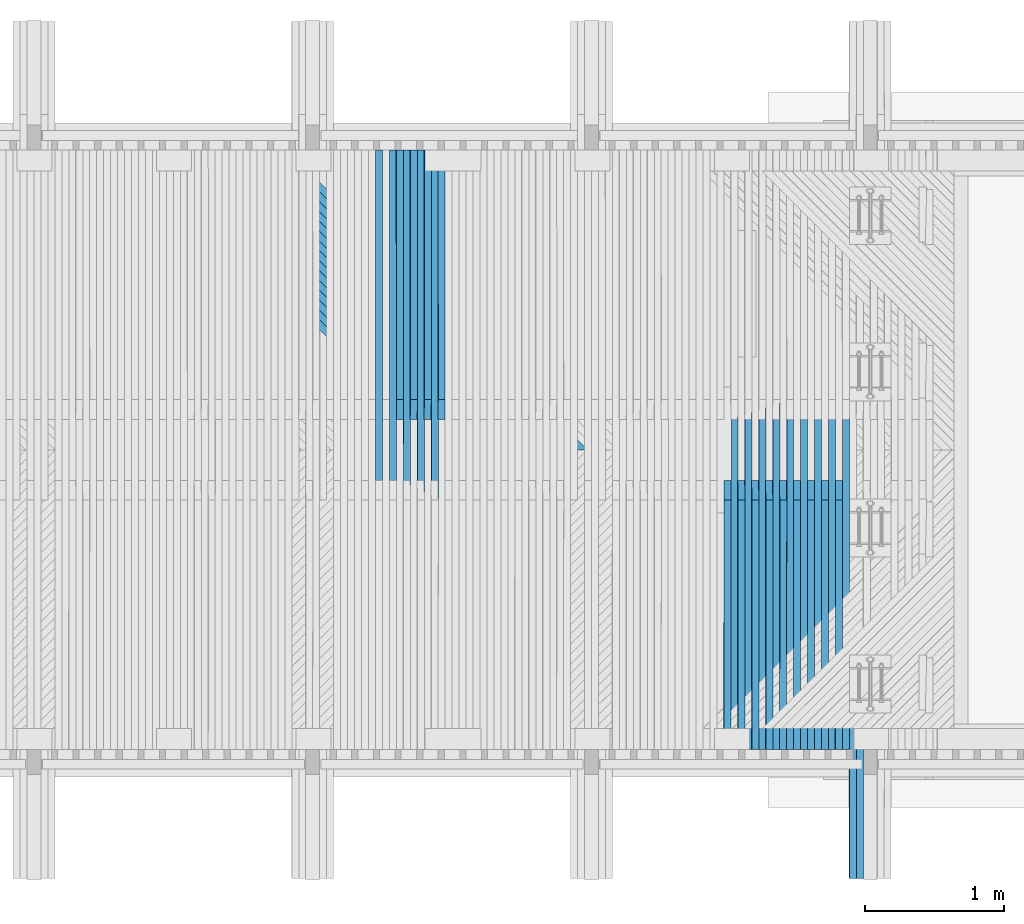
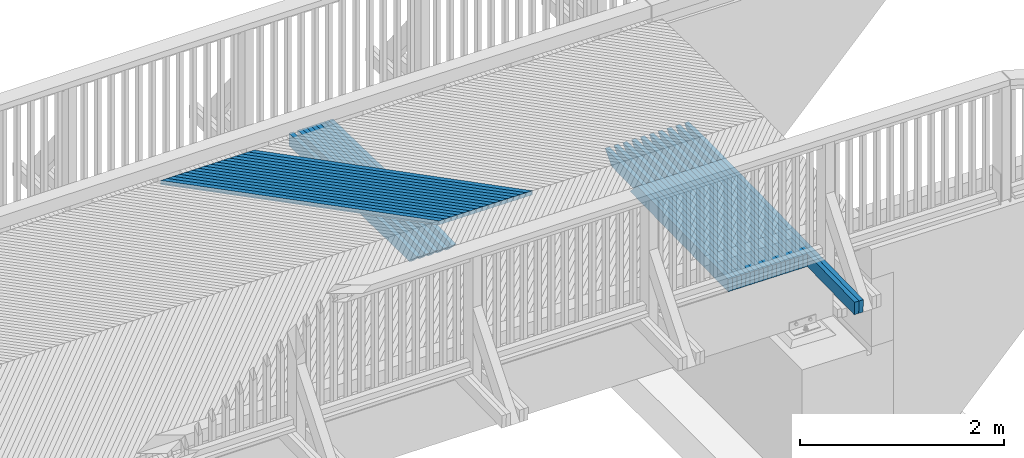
# One storey, part 42 of 53: 44 beams.
"""IFC2X3 building model written with IfcOpenShell, lengths in millimetres."""

from ifc_helpers import new_model, si_unit, frame, origin_with_axes, place, context, subcontext, project, spatial, faceted_brep, material, type_object, element, save


model = new_model("IFC2X3")

# Units and contexts
model_context = context("Model", 3, precision=1e-05, world=origin_with_axes())
body_context = subcontext(model_context, "Body", "Model", "MODEL_VIEW")
ifc_project = project(units=[si_unit("LENGTHUNIT", "METRE", prefix="MILLI"), si_unit("AREAUNIT", "SQUARE_METRE"), si_unit("VOLUMEUNIT", "CUBIC_METRE"), si_unit("MASSUNIT", "GRAM", prefix="KILO"), si_unit("TIMEUNIT", "SECOND"), si_unit("PLANEANGLEUNIT", "RADIAN"), si_unit("SOLIDANGLEUNIT", "STERADIAN"), si_unit("THERMODYNAMICTEMPERATUREUNIT", "DEGREE_CELSIUS"), si_unit("LUMINOUSINTENSITYUNIT", "LUMEN")], contexts=[model_context])

# Site, building, storey
site_placement = place(None, origin_with_axes())
site = spatial("IfcSite", under=ifc_project, at=site_placement, Name="Undefined", CompositionType="ELEMENT")
building_placement = place(site_placement, origin_with_axes())
building = spatial("IfcBuilding", under=site, at=building_placement, Name="Undefined", CompositionType="ELEMENT")
storey_placement = place(building_placement, origin_with_axes())
storey = spatial("IfcBuildingStorey", under=building, at=storey_placement, Name="Undefined", CompositionType="ELEMENT", Elevation=0.0)

# Beams
ifc_material = material(Name="TIMBER/Timber_Undefined")
beam_type_1 = type_object("IfcBeamType", Name="50*50", PredefinedType="NOTDEFINED")
for number, where, z_axis, x_axis, name in (
    (1, (13935.0975862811, 42365.4998996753, 3206.86972998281), (0.706953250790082, 0.706981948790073, -0.019839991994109), (-0.707214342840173, 0.706948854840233, -0.00843741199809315), "BEAM"),
    (2, (13864.3767480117, 42365.4998996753, 3207.56271699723), (0.706955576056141, 0.706981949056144, -0.019756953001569), (-0.707213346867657, 0.706948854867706, -0.00852048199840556), "BEAM"),
    (3, (13793.6558288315, 42365.4998996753, 3208.24739709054), (0.706957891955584, 0.706981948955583, -0.019673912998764), (-0.707212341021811, 0.706948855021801, -0.00860355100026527), "BEAM"),
    (4, (13722.9348297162, 42365.4998996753, 3208.92377025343), (0.706960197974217, 0.706981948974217, -0.0195908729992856), (-0.7072113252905, 0.706948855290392, -0.00868662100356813), "BEAM"),
    (5, (13652.2137516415, 42365.4998996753, 3209.5918364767), (0.70696249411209, 0.706981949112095, -0.0195078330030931), (-0.707210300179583, 0.706948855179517, -0.00876969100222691), "BEAM"),
    (6, (13581.4925955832, 42365.4998996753, 3210.25159575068), (0.706964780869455, 0.706981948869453, -0.0194247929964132), (-0.707209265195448, 0.706948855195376, -0.00885276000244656), "BEAM"),
    (7, (13510.771362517, 42365.4998996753, 3210.90304806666), (0.706967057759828, 0.706981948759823, -0.019341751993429), (-0.70720822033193, 0.706948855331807, -0.00893582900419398), "BEAM"),
    (8, (13440.0500534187, 42365.4998996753, 3211.54619341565), (0.706969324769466, 0.706981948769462, -0.0192587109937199), (-0.707207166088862, 0.706948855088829, -0.00901889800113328), "BEAM"),
    (9, (13369.3286692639, 42365.4998996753, 3212.18103178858), (0.706971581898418, 0.706981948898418, -0.0191756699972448), (-0.707206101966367, 0.706948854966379, -0.0091019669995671), "BEAM"),
    (10, (13298.6072110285, 42365.4998996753, 3212.80756317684), (0.706973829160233, 0.706981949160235, -0.0190926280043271), (-0.707205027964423, 0.706948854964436, -0.00918503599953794), "BEAM"),
    (11, (13227.8856796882, 42365.4998996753, 3213.42578757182), (0.706976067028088, 0.70698194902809, -0.0190095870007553), (-0.707203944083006, 0.706948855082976, -0.00926810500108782), "BEAM"),
    (12, (13157.1640762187, 42365.4998996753, 3214.03570496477), (0.70697829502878, 0.70698194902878, -0.0189265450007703), (-0.707202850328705, 0.706948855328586, -0.00935117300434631), "BEAM"),
    (13, (13086.4424015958, 42365.4998996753, 3214.63731534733), (0.706980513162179, 0.70698194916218, -0.0188435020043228), (-0.707201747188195, 0.706948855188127, -0.00943424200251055), "BEAM"),
    (14, (13015.7206567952, 42365.4998996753, 3215.23061871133), (0.706982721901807, 0.706981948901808, -0.0187604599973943), (-0.707200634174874, 0.706948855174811, -0.00951731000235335), "BEAM"),
    (15, (12944.9988427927, 42365.4998996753, 3215.81561504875), (0.706984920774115, 0.706981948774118, -0.0186774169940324), (-0.707199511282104, 0.706948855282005, -0.0096003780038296), "BEAM"),
):
    element("IfcBeam", number, at=place(storey_placement, frame(where, z_axis=z_axis, x_axis=x_axis)), inside=storey, type_object=beam_type_1, material=ifc_material, Name=name, ObjectType="50*50", context=body_context, shape_type="Brep", body=[
        faceted_brep([(23.5869248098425, 25.0000000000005, -24.9999999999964), (-26.415415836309, 25.0000000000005, 25.0000000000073), (2802.92643296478, 25.0, 25.0), (2852.92877373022, 25.0, -25.0000000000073), (-25.001170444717, -24.9999999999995, 25.0000000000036), (2804.3406783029, -25.0, 24.9999999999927), (25.0011701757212, -24.9999999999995, -24.9999999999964), (2854.34301907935, -25.0, -25.0)], [[[0, 1, 2, 3]], [[1, 4, 5, 2]], [[4, 6, 7, 5]], [[6, 0, 3, 7]], [[5, 7, 3, 2]], [[6, 4, 1, 0]]]),
    ])
beam_type_2 = type_object("IfcBeamType", Name="150*50", PredefinedType="NOTDEFINED")
beam_1_placement = place(storey_placement, frame((15874.2440465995, 39292.7893167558, 3023.15754236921), z_axis=(0.0130002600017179, -0.0199960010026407, 0.999715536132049), x_axis=(0.000261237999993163, 0.999800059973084, 0.0199942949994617)))
element("IfcBeam", 16, at=beam_1_placement, inside=storey, type_object=beam_type_2, material=ifc_material, Name="BEAM", ObjectType="150*50", context=body_context, shape_type="Brep", body=[
    faceted_brep([(1.28420651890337e-08, -24.9999999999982, -74.9999999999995), (-1.28347892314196e-08, -24.9999999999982, 75.0), (-1.28347892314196e-08, 25.0, 75.0), (1.28420651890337e-08, 25.0000000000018, -75.0), (2713.86938248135, -25.0000000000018, 74.9999999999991), (2713.86933800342, 25.0000000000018, 75.0), (2852.32643692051, 24.9999999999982, -75.0000000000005), (2852.32648139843, -25.0000000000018, -75.0000000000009)], [[[0, 1, 2, 3]], [[2, 1, 4, 5]], [[3, 2, 5, 6]], [[0, 3, 6, 7]], [[1, 0, 7, 4]], [[7, 6, 5, 4]]]),
])
beam_2_placement = place(storey_placement, frame((15924.2619890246, 39292.7893321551, 3022.49880086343), z_axis=(0.0131663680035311, -0.019996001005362, 0.9997133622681), x_axis=(0.000263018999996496, 0.999800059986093, 0.0199942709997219)))
element("IfcBeam", 17, at=beam_2_placement, inside=storey, type_object=beam_type_2, material=ifc_material, Name="BEAM", ObjectType="150*50", context=body_context, shape_type="Brep", body=[
    faceted_brep([(1.28420651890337e-08, -24.9999999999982, -74.9999999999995), (-1.28347892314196e-08, -24.9999999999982, 75.0), (-1.28347892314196e-08, 25.0, 75.0), (1.28420651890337e-08, 25.0000000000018, -75.0), (3298.90492234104, 25.0, -75.0), (3298.90497884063, -24.9999999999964, -75.0), (3434.49251531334, -24.9999999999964, 60.587536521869), (3074.32503029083, -25.0, 75.0000000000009), (3074.32503673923, 25.0000000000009, 75.0), (3434.49245887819, 25.0, 60.5875365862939)], [[[0, 1, 2, 3]], [[0, 3, 4, 5]], [[1, 0, 5, 6, 7]], [[2, 1, 7, 8]], [[4, 3, 2, 8, 9]], [[5, 4, 9, 6]], [[6, 9, 8, 7]]]),
])
beam_3_placement = place(storey_placement, frame((15774.717424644, 40216.5046076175, 3042.92875591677), z_axis=(0.0128355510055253, -0.019996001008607, 0.999717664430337), x_axis=(0.000256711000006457, 0.999800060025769, 0.0199943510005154)))
element("IfcBeam", 18, at=beam_3_placement, inside=storey, type_object=beam_type_2, material=ifc_material, Name="BEAM", ObjectType="150*50", context=body_context, shape_type="Brep", body=[
    faceted_brep([(1.28420651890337e-08, -24.9999999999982, -74.9999999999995), (-1.28347892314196e-08, -24.9999999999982, 75.0), (-1.28347892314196e-08, 25.0, 75.0), (1.28420651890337e-08, 25.0000000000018, -75.0), (1789.96936433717, -25.0000000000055, 74.9999999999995), (1789.96936408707, 24.9999999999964, 75.0000000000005), (1928.42646328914, 24.9999999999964, -74.9999999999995), (1928.42646353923, -25.0000000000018, -75.0)], [[[0, 1, 2, 3]], [[2, 1, 4, 5]], [[3, 2, 5, 6]], [[0, 3, 6, 7]], [[1, 0, 7, 4]], [[6, 5, 4, 7]]]),
])
beam_4_placement = place(storey_placement, frame((15824.7332279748, 40216.5046076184, 3042.27828425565), z_axis=(0.0130016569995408, -0.0199960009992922, 0.999715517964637), x_axis=(0.00026003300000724, 0.999800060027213, 0.0199943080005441)))
element("IfcBeam", 19, at=beam_4_placement, inside=storey, type_object=beam_type_2, material=ifc_material, Name="BEAM", ObjectType="150*50", context=body_context, shape_type="Brep", body=[
    faceted_brep([(1.28420651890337e-08, -24.9999999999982, -74.9999999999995), (-1.28347892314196e-08, -24.9999999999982, 75.0), (-1.28347892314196e-08, 25.0, 75.0), (1.28420651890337e-08, 25.0000000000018, -75.0), (2375.00494422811, 25.0000000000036, -75.0), (2375.0049444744, -24.9999999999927, -74.9999999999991), (2510.5924871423, -24.9999999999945, 60.5875430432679), (2150.42514405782, -24.9999999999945, 75.0), (2150.42515052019, 25.0000000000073, 75.0), (2510.59248715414, 25.0000000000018, 60.5875433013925)], [[[0, 1, 2, 3]], [[0, 3, 4, 5]], [[1, 0, 5, 6, 7]], [[2, 1, 7, 8]], [[4, 3, 2, 8, 9]], [[5, 4, 9, 6]], [[6, 9, 8, 7]]]),
])
beam_5_placement = place(storey_placement, frame((15674.7056284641, 40216.5046076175, 3044.21225802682), z_axis=(0.012669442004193, -0.0199960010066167, 0.999719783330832), x_axis=(0.000253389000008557, 0.99980006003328, 0.0199943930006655)))
element("IfcBeam", 20, at=beam_5_placement, inside=storey, type_object=beam_type_2, material=ifc_material, Name="BEAM", ObjectType="150*50", context=body_context, shape_type="Brep", body=[
    faceted_brep([(1.28420651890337e-08, -24.9999999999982, -74.9999999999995), (-1.28347892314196e-08, -24.9999999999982, 75.0), (-1.28347892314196e-08, 25.0, 75.0), (1.28420651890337e-08, 25.0000000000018, -75.0), (1789.96936433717, -25.0000000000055, 74.9999999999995), (1789.96936408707, 24.9999999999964, 75.0000000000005), (1928.42646328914, 24.9999999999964, -74.9999999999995), (1928.42646353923, -25.0000000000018, -75.0)], [[[0, 1, 2, 3]], [[2, 1, 4, 5]], [[3, 2, 5, 6]], [[0, 3, 6, 7]], [[1, 0, 7, 4]], [[6, 5, 4, 7]]]),
])
beam_6_placement = place(storey_placement, frame((15724.7215391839, 40216.5046076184, 3043.57009676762), z_axis=(0.0128355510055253, -0.019996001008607, 0.999717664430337), x_axis=(0.000256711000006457, 0.999800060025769, 0.0199943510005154)))
element("IfcBeam", 21, at=beam_6_placement, inside=storey, type_object=beam_type_2, material=ifc_material, Name="BEAM", ObjectType="150*50", context=body_context, shape_type="Brep", body=[
    faceted_brep([(1.28420651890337e-08, -24.9999999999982, -74.9999999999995), (-1.28347892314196e-08, -24.9999999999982, 75.0), (-1.28347892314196e-08, 25.0, 75.0), (1.28420651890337e-08, 25.0000000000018, -75.0), (2375.00494422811, 25.0000000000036, -75.0), (2375.0049444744, -24.9999999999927, -74.9999999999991), (2510.5924871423, -24.9999999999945, 60.5875430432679), (2150.42514405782, -24.9999999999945, 75.0), (2150.42515052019, 25.0000000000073, 75.0), (2510.59248715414, 25.0000000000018, 60.5875433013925)], [[[0, 1, 2, 3]], [[0, 3, 4, 5]], [[1, 0, 5, 6, 7]], [[2, 1, 7, 8]], [[4, 3, 2, 8, 9]], [[5, 4, 9, 6]], [[6, 9, 8, 7]]]),
])
beam_7_placement = place(storey_placement, frame((15574.6936204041, 40216.5046076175, 3045.47914262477), z_axis=(0.0125033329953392, -0.0199960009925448, 0.999721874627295), x_axis=(0.000250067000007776, 0.999800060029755, 0.019994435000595)))
element("IfcBeam", 22, at=beam_7_placement, inside=storey, type_object=beam_type_2, material=ifc_material, Name="BEAM", ObjectType="150*50", context=body_context, shape_type="Brep", body=[
    faceted_brep([(1.28420651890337e-08, -24.9999999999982, -74.9999999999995), (-1.28347892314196e-08, -24.9999999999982, 75.0), (-1.28347892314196e-08, 25.0, 75.0), (1.28420651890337e-08, 25.0000000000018, -75.0), (1789.96936433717, -25.0000000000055, 74.9999999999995), (1789.96936408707, 24.9999999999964, 75.0000000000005), (1928.42646328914, 24.9999999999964, -74.9999999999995), (1928.42646353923, -25.0000000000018, -75.0)], [[[0, 1, 2, 3]], [[2, 1, 4, 5]], [[3, 2, 5, 6]], [[0, 3, 6, 7]], [[1, 0, 7, 4]], [[6, 5, 4, 7]]]),
])
beam_8_placement = place(storey_placement, frame((15624.7096371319, 40216.5046076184, 3044.8452917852), z_axis=(0.012669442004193, -0.0199960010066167, 0.999719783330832), x_axis=(0.000253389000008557, 0.99980006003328, 0.0199943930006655)))
element("IfcBeam", 23, at=beam_8_placement, inside=storey, type_object=beam_type_2, material=ifc_material, Name="BEAM", ObjectType="150*50", context=body_context, shape_type="Brep", body=[
    faceted_brep([(1.28420651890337e-08, -24.9999999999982, -74.9999999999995), (-1.28347892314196e-08, -24.9999999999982, 75.0), (-1.28347892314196e-08, 25.0, 75.0), (1.28420651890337e-08, 25.0000000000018, -75.0), (2375.00494422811, 25.0000000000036, -75.0), (2375.0049444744, -24.9999999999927, -74.9999999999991), (2510.5924871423, -24.9999999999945, 60.5875430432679), (2150.42514405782, -24.9999999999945, 75.0), (2150.42515052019, 25.0000000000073, 75.0), (2510.59248715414, 25.0000000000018, 60.5875433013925)], [[[0, 1, 2, 3]], [[0, 3, 4, 5]], [[1, 0, 5, 6, 7]], [[2, 1, 7, 8]], [[4, 3, 2, 8, 9]], [[5, 4, 9, 6]], [[6, 9, 8, 7]]]),
])
beam_9_placement = place(storey_placement, frame((15474.6814032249, 40216.5046076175, 3046.72940967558), z_axis=(0.0123372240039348, -0.0199960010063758, 0.999723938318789), x_axis=(0.000246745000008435, 0.999800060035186, 0.0199944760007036)))
element("IfcBeam", 24, at=beam_9_placement, inside=storey, type_object=beam_type_2, material=ifc_material, Name="BEAM", ObjectType="150*50", context=body_context, shape_type="Brep", body=[
    faceted_brep([(1.28420651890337e-08, -24.9999999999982, -74.9999999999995), (-1.28347892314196e-08, -24.9999999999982, 75.0), (-1.28347892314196e-08, 25.0, 75.0), (1.28420651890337e-08, 25.0000000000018, -75.0), (1789.96936433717, -25.0000000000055, 74.9999999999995), (1789.96936408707, 24.9999999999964, 75.0000000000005), (1928.42646328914, 24.9999999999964, -74.9999999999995), (1928.42646353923, -25.0000000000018, -75.0)], [[[0, 1, 2, 3]], [[2, 1, 4, 5]], [[3, 2, 5, 6]], [[0, 3, 6, 7]], [[1, 0, 7, 4]], [[6, 5, 4, 7]]]),
])
beam_10_placement = place(storey_placement, frame((15524.6975245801, 40216.5046076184, 3046.10386927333), z_axis=(0.0125033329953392, -0.0199960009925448, 0.999721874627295), x_axis=(0.000250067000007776, 0.999800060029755, 0.019994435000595)))
element("IfcBeam", 25, at=beam_10_placement, inside=storey, type_object=beam_type_2, material=ifc_material, Name="BEAM", ObjectType="150*50", context=body_context, shape_type="Brep", body=[
    faceted_brep([(1.28420651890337e-08, -24.9999999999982, -74.9999999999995), (-1.28347892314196e-08, -24.9999999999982, 75.0), (-1.28347892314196e-08, 25.0, 75.0), (1.28420651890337e-08, 25.0000000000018, -75.0), (2375.00494422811, 25.0000000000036, -75.0), (2375.0049444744, -24.9999999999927, -74.9999999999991), (2510.5924871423, -24.9999999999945, 60.5875430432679), (2150.42514405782, -24.9999999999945, 75.0), (2150.42515052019, 25.0000000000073, 75.0), (2510.59248715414, 25.0000000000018, 60.5875433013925)], [[[0, 1, 2, 3]], [[0, 3, 4, 5]], [[1, 0, 5, 6, 7]], [[2, 1, 7, 8]], [[4, 3, 2, 8, 9]], [[5, 4, 9, 6]], [[6, 9, 8, 7]]]),
])
beam_11_placement = place(storey_placement, frame((15374.6689796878, 40216.5046076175, 3047.96305914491), z_axis=(0.0121711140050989, -0.0199960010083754, 0.999725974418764), x_axis=(0.000243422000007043, 0.999800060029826, 0.0199945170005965)))
element("IfcBeam", 26, at=beam_11_placement, inside=storey, type_object=beam_type_2, material=ifc_material, Name="BEAM", ObjectType="150*50", context=body_context, shape_type="Brep", body=[
    faceted_brep([(1.28420651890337e-08, -24.9999999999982, -74.9999999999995), (-1.28347892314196e-08, -24.9999999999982, 75.0), (-1.28347892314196e-08, 25.0, 75.0), (1.28420651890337e-08, 25.0000000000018, -75.0), (1789.96936433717, -25.0000000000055, 74.9999999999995), (1789.96936408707, 24.9999999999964, 75.0000000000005), (1928.42646328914, 24.9999999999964, -74.9999999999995), (1928.42646353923, -25.0000000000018, -75.0)], [[[0, 1, 2, 3]], [[2, 1, 4, 5]], [[3, 2, 5, 6]], [[0, 3, 6, 7]], [[1, 0, 7, 4]], [[6, 5, 4, 7]]]),
])
beam_12_placement = place(storey_placement, frame((15424.6852042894, 40216.5046076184, 3047.34582919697), z_axis=(0.0123372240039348, -0.0199960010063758, 0.999723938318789), x_axis=(0.000246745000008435, 0.999800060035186, 0.0199944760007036)))
element("IfcBeam", 27, at=beam_12_placement, inside=storey, type_object=beam_type_2, material=ifc_material, Name="BEAM", ObjectType="150*50", context=body_context, shape_type="Brep", body=[
    faceted_brep([(1.28420651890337e-08, -24.9999999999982, -74.9999999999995), (-1.28347892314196e-08, -24.9999999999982, 75.0), (-1.28347892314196e-08, 25.0, 75.0), (1.28420651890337e-08, 25.0000000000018, -75.0), (2375.00494422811, 25.0000000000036, -75.0), (2375.0049444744, -24.9999999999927, -74.9999999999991), (2510.5924871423, -24.9999999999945, 60.5875430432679), (2150.42514405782, -24.9999999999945, 75.0), (2150.42515052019, 25.0000000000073, 75.0), (2510.59248715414, 25.0000000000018, 60.5875433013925)], [[[0, 1, 2, 3]], [[0, 3, 4, 5]], [[1, 0, 5, 6, 7]], [[2, 1, 7, 8]], [[4, 3, 2, 8, 9]], [[5, 4, 9, 6]], [[6, 9, 8, 7]]]),
])
beam_13_placement = place(storey_placement, frame((15274.6563525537, 40216.5046076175, 3049.1800909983), z_axis=(0.0120050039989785, -0.0199960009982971, 0.999727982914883), x_axis=(0.000240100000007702, 0.999800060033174, 0.0199945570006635)))
element("IfcBeam", 28, at=beam_13_placement, inside=storey, type_object=beam_type_2, material=ifc_material, Name="BEAM", ObjectType="150*50", context=body_context, shape_type="Brep", body=[
    faceted_brep([(1.28420651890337e-08, -24.9999999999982, -74.9999999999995), (-1.28347892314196e-08, -24.9999999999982, 75.0), (-1.28347892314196e-08, 25.0, 75.0), (1.28420651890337e-08, 25.0000000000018, -75.0), (1789.96936433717, -25.0000000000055, 74.9999999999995), (1789.96936408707, 24.9999999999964, 75.0000000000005), (1928.42646328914, 24.9999999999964, -74.9999999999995), (1928.42646353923, -25.0000000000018, -75.0)], [[[0, 1, 2, 3]], [[2, 1, 4, 5]], [[3, 2, 5, 6]], [[0, 3, 6, 7]], [[1, 0, 7, 4]], [[6, 5, 4, 7]]]),
])
beam_14_placement = place(storey_placement, frame((15324.672679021, 40216.5046076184, 3048.57117152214), z_axis=(0.0121711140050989, -0.0199960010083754, 0.999725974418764), x_axis=(0.000243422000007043, 0.999800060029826, 0.0199945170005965)))
element("IfcBeam", 29, at=beam_14_placement, inside=storey, type_object=beam_type_2, material=ifc_material, Name="BEAM", ObjectType="150*50", context=body_context, shape_type="Brep", body=[
    faceted_brep([(1.28420651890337e-08, -24.9999999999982, -74.9999999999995), (-1.28347892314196e-08, -24.9999999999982, 75.0), (-1.28347892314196e-08, 25.0, 75.0), (1.28420651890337e-08, 25.0000000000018, -75.0), (2375.00494422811, 25.0000000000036, -75.0), (2375.0049444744, -24.9999999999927, -74.9999999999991), (2510.5924871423, -24.9999999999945, 60.5875430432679), (2150.42514405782, -24.9999999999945, 75.0), (2150.42515052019, 25.0000000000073, 75.0), (2510.59248715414, 25.0000000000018, 60.5875433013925)], [[[0, 1, 2, 3]], [[0, 3, 4, 5]], [[1, 0, 5, 6, 7]], [[2, 1, 7, 8]], [[4, 3, 2, 8, 9]], [[5, 4, 9, 6]], [[6, 9, 8, 7]]]),
])
beam_15_placement = place(storey_placement, frame((15174.6435245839, 40216.5046076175, 3050.38050520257), z_axis=(0.0118388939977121, -0.0199960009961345, 0.999729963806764), x_axis=(0.0002367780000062, 0.999800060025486, 0.0199945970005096)))
element("IfcBeam", 30, at=beam_15_placement, inside=storey, type_object=beam_type_2, material=ifc_material, Name="BEAM", ObjectType="150*50", context=body_context, shape_type="Brep", body=[
    faceted_brep([(1.28420651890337e-08, -24.9999999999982, -74.9999999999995), (-1.28347892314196e-08, -24.9999999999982, 75.0), (-1.28347892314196e-08, 25.0, 75.0), (1.28420651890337e-08, 25.0000000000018, -75.0), (1789.96936433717, -25.0000000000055, 74.9999999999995), (1789.96936408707, 24.9999999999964, 75.0000000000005), (1928.42646328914, 24.9999999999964, -74.9999999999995), (1928.42646353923, -25.0000000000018, -75.0)], [[[0, 1, 2, 3]], [[2, 1, 4, 5]], [[3, 2, 5, 6]], [[0, 3, 6, 7]], [[1, 0, 7, 4]], [[6, 5, 4, 7]]]),
])
beam_16_placement = place(storey_placement, frame((15224.659951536, 40216.5046076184, 3049.77989621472), z_axis=(0.0120050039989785, -0.0199960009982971, 0.999727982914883), x_axis=(0.000240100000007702, 0.999800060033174, 0.0199945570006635)))
element("IfcBeam", 31, at=beam_16_placement, inside=storey, type_object=beam_type_2, material=ifc_material, Name="BEAM", ObjectType="150*50", context=body_context, shape_type="Brep", body=[
    faceted_brep([(1.28420651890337e-08, -24.9999999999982, -74.9999999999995), (-1.28347892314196e-08, -24.9999999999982, 75.0), (-1.28347892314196e-08, 25.0, 75.0), (1.28420651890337e-08, 25.0000000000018, -75.0), (2375.00494422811, 25.0000000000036, -75.0), (2375.0049444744, -24.9999999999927, -74.9999999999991), (2510.5924871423, -24.9999999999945, 60.5875430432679), (2150.42514405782, -24.9999999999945, 75.0), (2150.42515052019, 25.0000000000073, 75.0), (2510.59248715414, 25.0000000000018, 60.5875433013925)], [[[0, 1, 2, 3]], [[0, 3, 4, 5]], [[1, 0, 5, 6, 7]], [[2, 1, 7, 8]], [[4, 3, 2, 8, 9]], [[5, 4, 9, 6]], [[6, 9, 8, 7]]]),
])
beam_17_placement = place(storey_placement, frame((15074.6304985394, 40216.5046076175, 3051.56430172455), z_axis=(0.0116727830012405, -0.0199960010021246, 0.999731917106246), x_axis=(0.00023345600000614, 0.999800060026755, 0.0199946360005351)))
element("IfcBeam", 32, at=beam_17_placement, inside=storey, type_object=beam_type_2, material=ifc_material, Name="BEAM", ObjectType="150*50", context=body_context, shape_type="Brep", body=[
    faceted_brep([(1.28420651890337e-08, -24.9999999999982, -74.9999999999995), (-1.28347892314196e-08, -24.9999999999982, 75.0), (-1.28347892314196e-08, 25.0, 75.0), (1.28420651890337e-08, 25.0000000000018, -75.0), (1789.96936433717, -25.0000000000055, 74.9999999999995), (1789.96936408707, 24.9999999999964, 75.0000000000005), (1928.42646328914, 24.9999999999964, -74.9999999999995), (1928.42646353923, -25.0000000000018, -75.0)], [[[0, 1, 2, 3]], [[2, 1, 4, 5]], [[3, 2, 5, 6]], [[0, 3, 6, 7]], [[1, 0, 7, 4]], [[6, 5, 4, 7]]]),
])
beam_18_placement = place(storey_placement, frame((15124.6470245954, 40216.5046076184, 3050.97200324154), z_axis=(0.0118388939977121, -0.0199960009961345, 0.999729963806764), x_axis=(0.0002367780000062, 0.999800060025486, 0.0199945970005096)))
element("IfcBeam", 33, at=beam_18_placement, inside=storey, type_object=beam_type_2, material=ifc_material, Name="BEAM", ObjectType="150*50", context=body_context, shape_type="Brep", body=[
    faceted_brep([(1.28420651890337e-08, -24.9999999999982, -74.9999999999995), (-1.28347892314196e-08, -24.9999999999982, 75.0), (-1.28347892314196e-08, 25.0, 75.0), (1.28420651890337e-08, 25.0000000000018, -75.0), (2375.00494422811, 25.0000000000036, -75.0), (2375.0049444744, -24.9999999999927, -74.9999999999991), (2510.5924871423, -24.9999999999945, 60.5875430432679), (2150.42514405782, -24.9999999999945, 75.0), (2150.42515052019, 25.0000000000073, 75.0), (2510.59248715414, 25.0000000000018, 60.5875433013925)], [[[0, 1, 2, 3]], [[0, 3, 4, 5]], [[1, 0, 5, 6, 7]], [[2, 1, 7, 8]], [[4, 3, 2, 8, 9]], [[5, 4, 9, 6]], [[6, 9, 8, 7]]]),
])
beam_19_placement = place(storey_placement, frame((14974.6172771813, 40216.5046076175, 3052.73148053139), z_axis=(0.0115066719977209, -0.0199960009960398, 0.999733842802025), x_axis=(0.00023013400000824, 0.999800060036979, 0.0199946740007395)))
element("IfcBeam", 34, at=beam_19_placement, inside=storey, type_object=beam_type_2, material=ifc_material, Name="BEAM", ObjectType="150*50", context=body_context, shape_type="Brep", body=[
    faceted_brep([(1.28420651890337e-08, -24.9999999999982, -74.9999999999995), (-1.28347892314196e-08, -24.9999999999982, 75.0), (-1.28347892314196e-08, 25.0, 75.0), (1.28420651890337e-08, 25.0000000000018, -75.0), (1789.96936433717, -25.0000000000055, 74.9999999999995), (1789.96936408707, 24.9999999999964, 75.0000000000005), (1928.42646328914, 24.9999999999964, -74.9999999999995), (1928.42646353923, -25.0000000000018, -75.0)], [[[0, 1, 2, 3]], [[2, 1, 4, 5]], [[3, 2, 5, 6]], [[0, 3, 6, 7]], [[1, 0, 7, 4]], [[6, 5, 4, 7]]]),
])
beam_20_placement = place(storey_placement, frame((15024.6339009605, 40216.5046076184, 3052.14749256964), z_axis=(0.0116727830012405, -0.0199960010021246, 0.999731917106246), x_axis=(0.00023345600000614, 0.999800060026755, 0.0199946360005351)))
element("IfcBeam", 35, at=beam_20_placement, inside=storey, type_object=beam_type_2, material=ifc_material, Name="BEAM", ObjectType="150*50", context=body_context, shape_type="Brep", body=[
    faceted_brep([(1.28420651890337e-08, -24.9999999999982, -74.9999999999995), (-1.28347892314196e-08, -24.9999999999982, 75.0), (-1.28347892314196e-08, 25.0, 75.0), (1.28420651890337e-08, 25.0000000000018, -75.0), (2375.00494422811, 25.0000000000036, -75.0), (2375.0049444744, -24.9999999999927, -74.9999999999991), (2510.5924871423, -24.9999999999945, 60.5875430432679), (2150.42514405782, -24.9999999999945, 75.0), (2150.42515052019, 25.0000000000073, 75.0), (2510.59248715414, 25.0000000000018, 60.5875433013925)], [[[0, 1, 2, 3]], [[0, 3, 4, 5]], [[1, 0, 5, 6, 7]], [[2, 1, 7, 8]], [[4, 3, 2, 8, 9]], [[5, 4, 9, 6]], [[6, 9, 8, 7]]]),
])
beam_21_placement = place(storey_placement, frame((12874.8994002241, 44513.4953923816, 3073.40458690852), z_axis=(0.00801827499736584, 0.0199960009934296, 0.999767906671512), x_axis=(0.0001603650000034, -0.999800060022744, 0.0199953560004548)))
element("IfcBeam", 36, at=beam_21_placement, inside=storey, type_object=beam_type_2, material=ifc_material, Name="BEAM", ObjectType="150*50", context=body_context, shape_type="Brep", body=[
    faceted_brep([(1.28420651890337e-08, -24.9999999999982, -74.9999999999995), (1.28420651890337e-08, 25.0000000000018, -75.0), (2375.00494422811, 25.0000000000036, -75.0), (2375.0049444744, -24.9999999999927, -74.9999999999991), (-1.28347892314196e-08, -24.9999999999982, 75.0), (-1.28347892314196e-08, 25.0, 75.0), (2150.42515052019, 25.0000000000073, 75.0), (2510.59248715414, 25.0000000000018, 60.5875433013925), (2510.5924871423, -24.9999999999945, 60.5875430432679), (2150.42514405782, -24.9999999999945, 75.0)], [[[0, 1, 2, 3]], [[0, 4, 5, 1]], [[2, 1, 5, 6, 7]], [[3, 2, 7, 8]], [[4, 0, 3, 8, 9]], [[5, 4, 9, 6]], [[8, 7, 6, 9]]]),
])
beam_22_placement = place(storey_placement, frame((12924.9177572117, 44513.4953923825, 3072.99512326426), z_axis=(0.00818439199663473, 0.0199960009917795, 0.999766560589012), x_axis=(0.000163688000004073, -0.999800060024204, 0.019995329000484)))
element("IfcBeam", 37, at=beam_22_placement, inside=storey, type_object=beam_type_2, material=ifc_material, Name="BEAM", ObjectType="150*50", context=body_context, shape_type="Brep", body=[
    faceted_brep([(1.28420651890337e-08, -24.9999999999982, -74.9999999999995), (-1.28347892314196e-08, -24.9999999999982, 75.0), (-1.28347892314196e-08, 25.0, 75.0), (1.28420651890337e-08, 25.0000000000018, -75.0), (1789.96936408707, 24.9999999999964, 75.0000000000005), (1928.42646328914, 24.9999999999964, -74.9999999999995), (1928.42646353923, -25.0000000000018, -75.0), (1789.96936433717, -25.0000000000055, 74.9999999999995)], [[[0, 1, 2, 3]], [[3, 2, 4, 5]], [[0, 3, 5, 6]], [[1, 0, 6, 7]], [[2, 1, 7, 4]], [[5, 4, 7, 6]]]),
])
beam_23_placement = place(storey_placement, frame((12774.8825803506, 44513.4953923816, 3074.20626833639), z_axis=(0.00785215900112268, 0.0199960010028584, 0.99976922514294), x_axis=(0.00015704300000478, -0.999800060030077, 0.0199953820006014)))
element("IfcBeam", 38, at=beam_23_placement, inside=storey, type_object=beam_type_2, material=ifc_material, Name="BEAM", ObjectType="150*50", context=body_context, shape_type="Brep", body=[
    faceted_brep([(1.28420651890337e-08, -24.9999999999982, -74.9999999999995), (1.28420651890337e-08, 25.0000000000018, -75.0), (2375.00494422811, 25.0000000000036, -75.0), (2375.0049444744, -24.9999999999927, -74.9999999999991), (-1.28347892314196e-08, -24.9999999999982, 75.0), (-1.28347892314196e-08, 25.0, 75.0), (2150.42515052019, 25.0000000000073, 75.0), (2510.59248715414, 25.0000000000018, 60.5875433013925), (2510.5924871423, -24.9999999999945, 60.5875430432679), (2150.42514405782, -24.9999999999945, 75.0)], [[[0, 1, 2, 3]], [[0, 4, 5, 1]], [[2, 1, 5, 6, 7]], [[3, 2, 7, 8]], [[4, 0, 3, 8, 9]], [[5, 4, 9, 6]], [[8, 7, 6, 9]]]),
])
beam_24_placement = place(storey_placement, frame((12824.9010046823, 44513.4953923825, 3073.80511551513), z_axis=(0.00801827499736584, 0.0199960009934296, 0.999767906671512), x_axis=(0.0001603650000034, -0.999800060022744, 0.0199953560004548)))
element("IfcBeam", 39, at=beam_24_placement, inside=storey, type_object=beam_type_2, material=ifc_material, Name="BEAM", ObjectType="150*50", context=body_context, shape_type="Brep", body=[
    faceted_brep([(1.28420651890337e-08, -24.9999999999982, -74.9999999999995), (-1.28347892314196e-08, -24.9999999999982, 75.0), (-1.28347892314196e-08, 25.0, 75.0), (1.28420651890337e-08, 25.0000000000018, -75.0), (1789.96936408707, 24.9999999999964, 75.0000000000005), (1928.42646328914, 24.9999999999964, -74.9999999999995), (1928.42646353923, -25.0000000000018, -75.0), (1789.96936433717, -25.0000000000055, 74.9999999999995)], [[[0, 1, 2, 3]], [[3, 2, 4, 5]], [[0, 3, 5, 6]], [[1, 0, 6, 7]], [[2, 1, 7, 4]], [[5, 4, 7, 6]]]),
])
beam_25_placement = place(storey_placement, frame((12674.8656286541, 44513.4953923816, 3074.99133142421), z_axis=(0.00768604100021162, 0.0199960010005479, 0.999770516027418), x_axis=(0.000153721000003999, -0.999800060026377, 0.0199954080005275)))
element("IfcBeam", 40, at=beam_25_placement, inside=storey, type_object=beam_type_2, material=ifc_material, Name="BEAM", ObjectType="150*50", context=body_context, shape_type="Brep", body=[
    faceted_brep([(1.28420651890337e-08, -24.9999999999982, -74.9999999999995), (1.28420651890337e-08, 25.0000000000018, -75.0), (2375.00494422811, 25.0000000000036, -75.0), (2375.0049444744, -24.9999999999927, -74.9999999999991), (-1.28347892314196e-08, -24.9999999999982, 75.0), (-1.28347892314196e-08, 25.0, 75.0), (2150.42515052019, 25.0000000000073, 75.0), (2510.59248715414, 25.0000000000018, 60.5875433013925), (2510.5924871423, -24.9999999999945, 60.5875430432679), (2150.42514405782, -24.9999999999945, 75.0)], [[[0, 1, 2, 3]], [[0, 4, 5, 1]], [[2, 1, 5, 6, 7]], [[3, 2, 7, 8]], [[4, 0, 3, 8, 9]], [[5, 4, 9, 6]], [[8, 7, 6, 9]]]),
])
beam_26_placement = place(storey_placement, frame((12724.884118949, 44513.4953923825, 3074.5984894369), z_axis=(0.00785215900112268, 0.0199960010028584, 0.99976922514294), x_axis=(0.00015704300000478, -0.999800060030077, 0.0199953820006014)))
element("IfcBeam", 41, at=beam_26_placement, inside=storey, type_object=beam_type_2, material=ifc_material, Name="BEAM", ObjectType="150*50", context=body_context, shape_type="Brep", body=[
    faceted_brep([(1.28420651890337e-08, -24.9999999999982, -74.9999999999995), (-1.28347892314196e-08, -24.9999999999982, 75.0), (-1.28347892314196e-08, 25.0, 75.0), (1.28420651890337e-08, 25.0000000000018, -75.0), (1789.96936408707, 24.9999999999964, 75.0000000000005), (1928.42646328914, 24.9999999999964, -74.9999999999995), (1928.42646353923, -25.0000000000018, -75.0), (1789.96936433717, -25.0000000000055, 74.9999999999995)], [[[0, 1, 2, 3]], [[3, 2, 4, 5]], [[0, 3, 5, 6]], [[1, 0, 6, 7]], [[2, 1, 7, 4]], [[5, 4, 7, 6]]]),
])
beam_27_placement = place(storey_placement, frame((12574.8485478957, 44513.4953923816, 3075.75977614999), z_axis=(0.00751992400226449, 0.0199960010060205, 0.99977177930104), x_axis=(0.000150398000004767, -0.999800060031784, 0.0199954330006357)))
element("IfcBeam", 42, at=beam_27_placement, inside=storey, type_object=beam_type_2, material=ifc_material, Name="BEAM", ObjectType="150*50", context=body_context, shape_type="Brep", body=[
    faceted_brep([(1.28420651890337e-08, -24.9999999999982, -74.9999999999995), (1.28420651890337e-08, 25.0000000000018, -75.0), (2375.00494422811, 25.0000000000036, -75.0), (2375.0049444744, -24.9999999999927, -74.9999999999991), (-1.28347892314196e-08, -24.9999999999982, 75.0), (-1.28347892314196e-08, 25.0, 75.0), (2150.42515052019, 25.0000000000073, 75.0), (2510.59248715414, 25.0000000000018, 60.5875433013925), (2510.5924871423, -24.9999999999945, 60.5875430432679), (2150.42514405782, -24.9999999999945, 75.0)], [[[0, 1, 2, 3]], [[0, 4, 5, 1]], [[2, 1, 5, 6, 7]], [[3, 2, 7, 8]], [[4, 0, 3, 8, 9]], [[5, 4, 9, 6]], [[8, 7, 6, 9]]]),
])
beam_28_placement = place(storey_placement, frame((12624.8671027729, 44513.4953923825, 3075.37524500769), z_axis=(0.00768604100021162, 0.0199960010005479, 0.999770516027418), x_axis=(0.000153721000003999, -0.999800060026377, 0.0199954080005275)))
element("IfcBeam", 43, at=beam_28_placement, inside=storey, type_object=beam_type_2, material=ifc_material, Name="BEAM", ObjectType="150*50", context=body_context, shape_type="Brep", body=[
    faceted_brep([(1.28420651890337e-08, -24.9999999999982, -74.9999999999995), (-1.28347892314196e-08, -24.9999999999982, 75.0), (-1.28347892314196e-08, 25.0, 75.0), (1.28420651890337e-08, 25.0000000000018, -75.0), (1789.96936408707, 24.9999999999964, 75.0000000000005), (1928.42646328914, 24.9999999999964, -74.9999999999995), (1928.42646353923, -25.0000000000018, -75.0), (1789.96936433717, -25.0000000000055, 74.9999999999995)], [[[0, 1, 2, 3]], [[3, 2, 4, 5]], [[0, 3, 5, 6]], [[1, 0, 6, 7]], [[2, 1, 7, 4]], [[5, 4, 7, 6]]]),
])
beam_29_placement = place(storey_placement, frame((12474.8313408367, 44513.4953923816, 3076.51160249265), z_axis=(0.00735380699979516, 0.0199960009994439, 0.999773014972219), x_axis=(0.000147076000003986, -0.999800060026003, 0.01999545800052)))
element("IfcBeam", 44, at=beam_29_placement, inside=storey, type_object=beam_type_2, material=ifc_material, Name="BEAM", ObjectType="150*50", context=body_context, shape_type="Brep", body=[
    faceted_brep([(1.28420651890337e-08, -24.9999999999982, -74.9999999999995), (1.28420651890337e-08, 25.0000000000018, -75.0), (2375.00494422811, 25.0000000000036, -75.0), (2375.0049444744, -24.9999999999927, -74.9999999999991), (-1.28347892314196e-08, -24.9999999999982, 75.0), (-1.28347892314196e-08, 25.0, 75.0), (2150.42515052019, 25.0000000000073, 75.0), (2510.59248715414, 25.0000000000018, 60.5875433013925), (2510.5924871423, -24.9999999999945, 60.5875430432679), (2150.42514405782, -24.9999999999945, 75.0)], [[[0, 1, 2, 3]], [[0, 4, 5, 1]], [[2, 1, 5, 6, 7]], [[3, 2, 7, 8]], [[4, 0, 3, 8, 9]], [[5, 4, 9, 6]], [[8, 7, 6, 9]]]),
])

save(model, "model.ifc")
